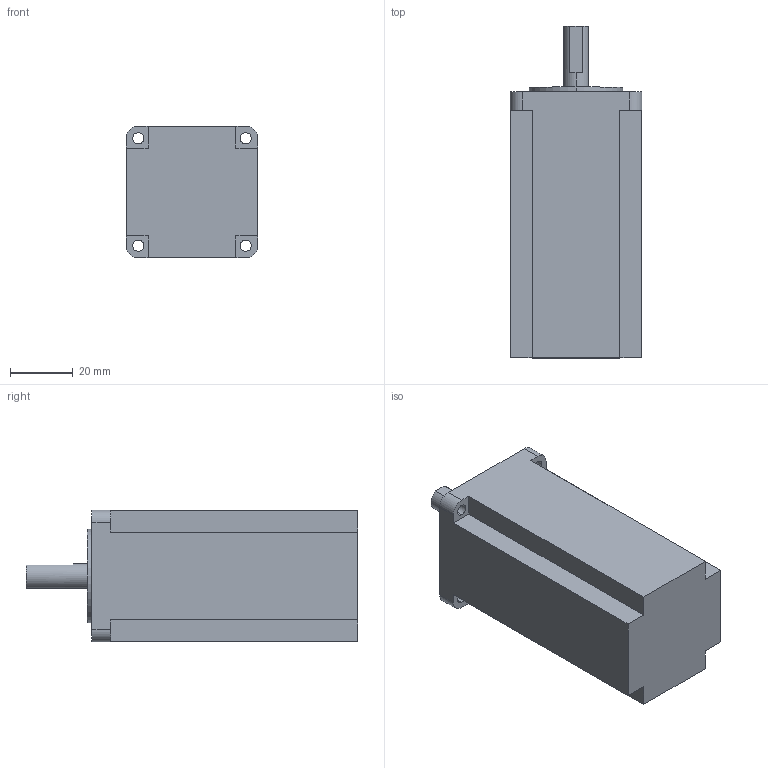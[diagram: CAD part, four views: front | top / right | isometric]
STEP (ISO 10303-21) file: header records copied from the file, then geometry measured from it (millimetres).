
FILE_DESCRIPTION (( 'STEP AP214' ), '1' );
FILE_NAME ('42A08EC.STEP', '2021-06-08T01:43:18', ( 'wimxt.com' ), ( 'wimxt.com' ), 'SwSTEP 2.0', 'SolidWorks 2014', '' );
FILE_SCHEMA (( 'AUTOMOTIVE_DESIGN' ));
Length unit declared in the file: millimetre
Products named in the file (1): 42A08EC
Bounding box: 42 x 106 x 42 mm (x, y, z)
Volume: 136156.2 mm3; surface area: 18561.8 mm2
Topology: 1 solids, 1 shells, 38 faces, 102 edges, 68 vertices
Faces by surface type: plane 22, cylinder 16
Entity records: 1250 total; most frequent: DIRECTION 214, CARTESIAN_POINT 209, ORIENTED_EDGE 204, EDGE_CURVE 102, AXIS2_PLACEMENT_3D 73, LINE 68, VERTEX_POINT 68, VECTOR 68
